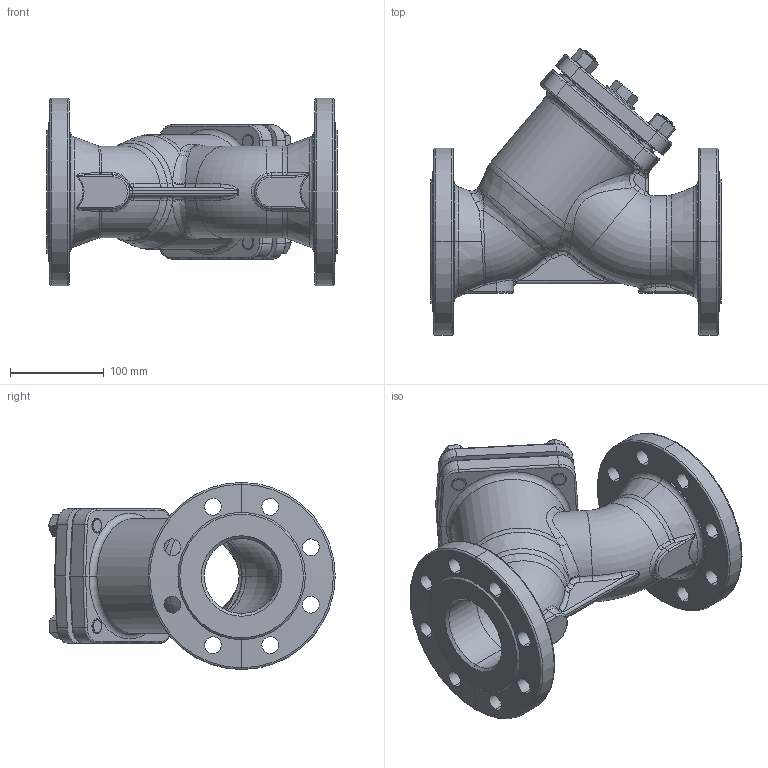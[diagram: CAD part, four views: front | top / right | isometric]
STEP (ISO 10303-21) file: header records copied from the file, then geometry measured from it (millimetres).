
FILE_DESCRIPTION (( 'STEP AP203' ), '1' );
FILE_NAME ('821_DN80 PN16.STEP', '2010-01-13T07:37:22', ( 'wtarnaws' ), ( '' ), 'SwSTEP 2.0', 'SolidWorks 2010', '' );
FILE_SCHEMA (( 'CONFIG_CONTROL_DESIGN' ));
Length unit declared in the file: millimetre
Products named in the file (6): 821_DN80 PN16; Kad³ub 80; Pokrywa 80; KOREK 1_Default; M16 x 40_PreviewCfg; Nakrêtka szeœciok¹tna PN-86_M-82144_M16
Assembly tree (15 placements, depth 2):
  821_DN80 PN16
    Nakrêtka szeœciok¹tna PN-86_M-82144_M16  x8
    M16 x 40_PreviewCfg  x4
    KOREK 1_Default
    Pokrywa 80
    Kad³ub 80
Bounding box: 310 x 305.98 x 200 mm (x, y, z)
Volume: 2855160.5 mm3; surface area: 474938.3 mm2
Topology: 15 solids, 15 shells, 656 faces, 1476 edges, 862 vertices
Faces by surface type: cylinder 186, cone 148, plane 128, bspline 106, torus 88
Entity records: 45858 total; most frequent: CARTESIAN_POINT 35420, ORIENTED_EDGE 2040, DIRECTION 1899, EDGE_CURVE 1020, AXIS2_PLACEMENT_3D 821, VERTEX_POINT 598, EDGE_LOOP 504, CIRCLE 469
